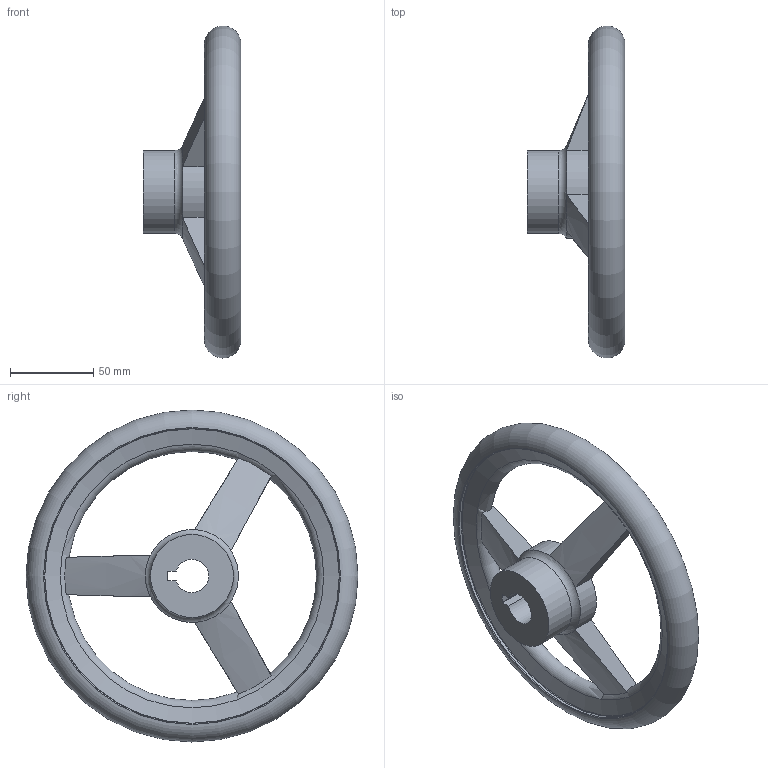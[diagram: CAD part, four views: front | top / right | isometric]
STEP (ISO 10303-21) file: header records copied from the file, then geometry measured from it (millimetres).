
FILE_DESCRIPTION( ( 'STEP AP203' ), '1' );
FILE_NAME( 'C:/Temp/Ganter_Step_05_03_2020/data/1_3/gn_950_1/gn_950_1_k/gn_950_1_k_a/Handwheel GN 950.1-GG-200-K20-A.stp', '2020-03-05T10:32:36', ( 'License CC BY-ND 4.0' ), ( 'CADENAS' ), ' ', 'PARTsolutions', ' ' );
FILE_SCHEMA( ( 'CONFIG_CONTROL_DESIGN' ) );
Length unit declared in the file: millimetre
Products named in the file (1): _Handwheel GN 950.1-GG-200-K20-A
Bounding box: 58.99 x 200 x 200 mm (x, y, z)
Volume: 311718 mm3; surface area: 63661.7 mm2
Topology: 1 solids, 1 shells, 38 faces, 107 edges, 67 vertices
Faces by surface type: torus 11, plane 11, cylinder 10, cone 6
Full cylindrical faces by diameter (mm): 50 x2, 178 x2
Entity records: 1390 total; most frequent: CARTESIAN_POINT 466, DIRECTION 174, ORIENTED_EDGE 174, EDGE_CURVE 87, AXIS2_PLACEMENT_3D 78, VERTEX_POINT 64, EDGE_LOOP 58, FACE_OUTER_BOUND 50
